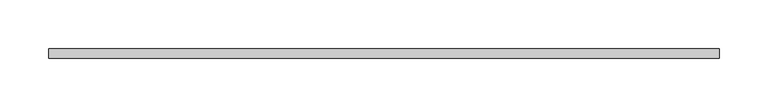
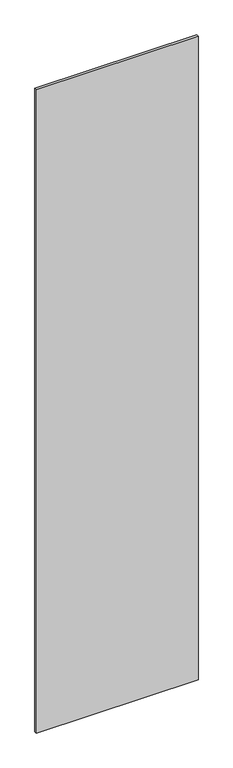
"""IFC4 building model written with IfcOpenShell, lengths in millimetres: plate geometry, システム パネル : 標準."""

from ifc_helpers import new_model, si_unit, origin, origin_with_axes, place, context, project, spatial, polyline, outline, extrude, source, transform, mapped, element, save


def plate_8ab51c12(model_context):
    return source(origin(), model_context, "Body", "SweptSolid", [
        extrude(outline(polyline([(344.358268, -5.0), (-344.358268, -5.0), (-344.358268, 5.0), (344.358268, 5.0), (344.358268, -5.0)])), origin_with_axes(), (0.0, 0.0, 1.0), 2895.0),
    ])


if __name__ == "__main__":
    model = new_model("IFC4")
    model_context = context("Model", 3, world=origin())
    ifc_project = project(units=[si_unit("LENGTHUNIT", "METRE", prefix="MILLI")], contexts=[model_context])
    site = spatial("IfcSite", under=ifc_project)
    building = spatial("IfcBuilding", under=site)
    placement = place(None, origin())
    plate_shape = plate_8ab51c12(model_context)
    element("IfcPlate", 1, ObjectType="システム パネル : 標準", at=placement, inside=building, context=model_context, shape_type="MappedRepresentation", body=[
        mapped(plate_shape, transform((0.0, 0.0, 0.0), x_axis=(1.0, 0.0, 0.0), y_axis=(0.0, 1.0, 0.0), z_axis=(0.0, 0.0, 1.0))),
    ])
    save(model, "model.ifc")
